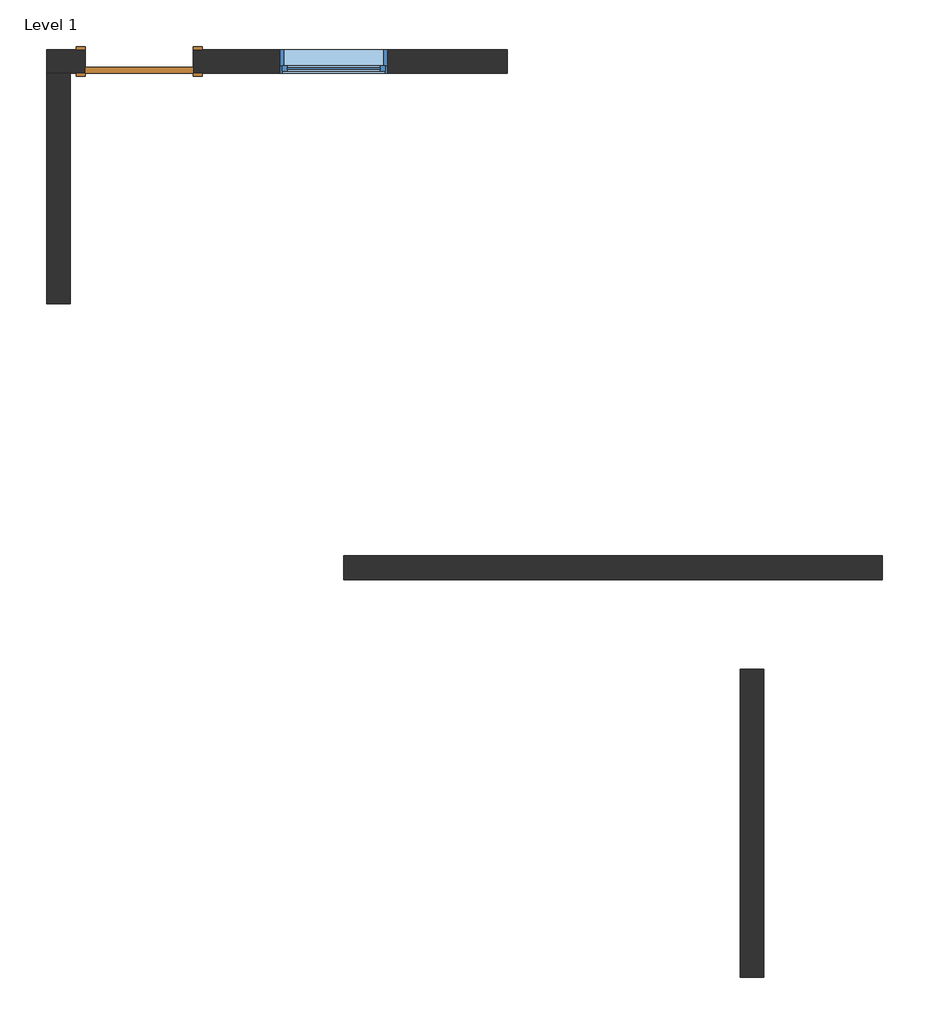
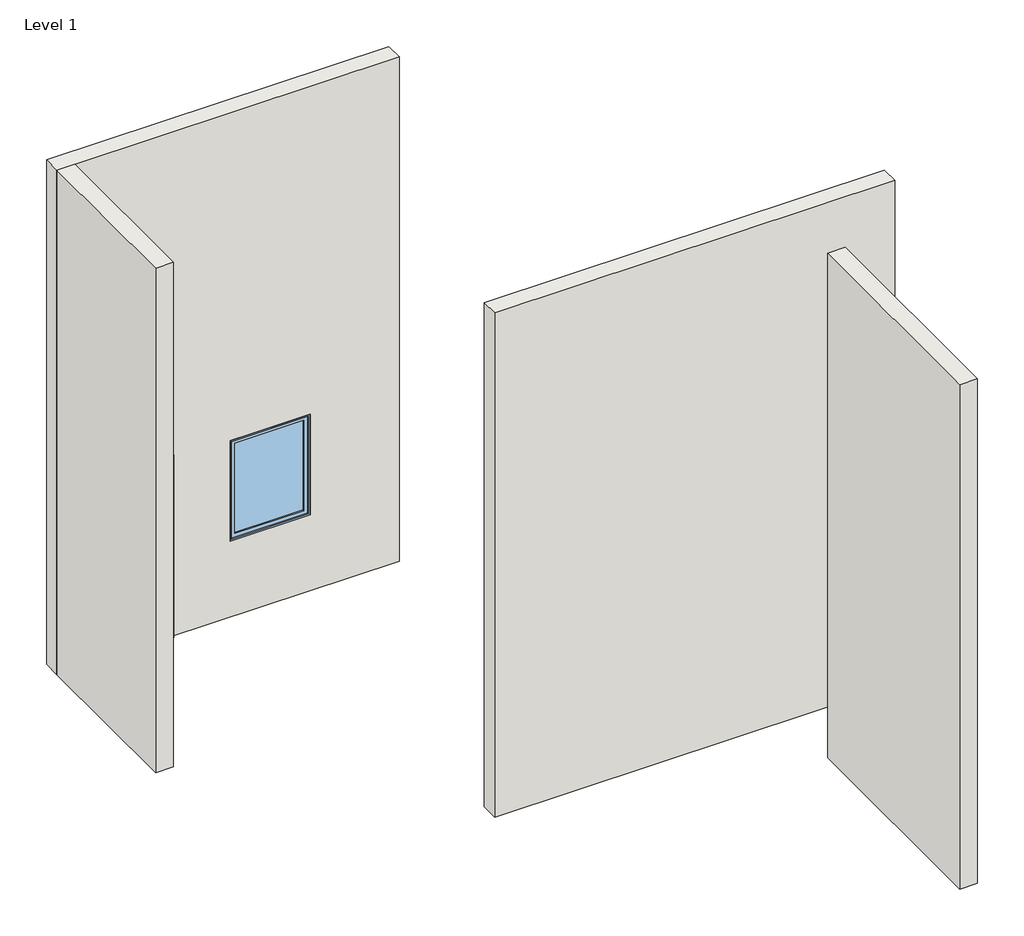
# One storey: 4 walls, 1 door, 1 window.
"""IFC4 building model written with IfcOpenShell, lengths in millimetres."""

from ifc_helpers import new_model, si_unit, origin, origin_with_axes, place, context, project, spatial, polyline, outline, extrude, faceted_brep, transform, mapped, element, save
from components import door_54dd4da4, window_e2841890

model = new_model("IFC4")

# Units and contexts
model_context = context("Model", 3, world=origin())
ifc_project = project(units=[si_unit("LENGTHUNIT", "METRE", prefix="MILLI")], contexts=[model_context])

# Site, building, storey
site = spatial("IfcSite", under=ifc_project)
building = spatial("IfcBuilding", under=site)
storey = spatial("IfcBuildingStorey", under=building, Name="Level 1", Elevation=0.0)

# Door
placement = place(None, origin())
door_shape = door_54dd4da4(model_context)
element("IfcDoor", 1, ObjectType="Single-Flush : 36\" x 84\"", at=placement, inside=storey, context=model_context, shape_type="MappedRepresentation", body=[
    mapped(door_shape, transform((1002.5435012, 12199.993224, 0.0), x_axis=(-1.0, 0.0, 0.0), y_axis=(0.0, -1.0, 0.0), z_axis=(0.0, 0.0, 1.0))),
])

# Walls
element("IfcWall", 2, ObjectType="Generic - 8\"", at=placement, inside=storey, context=model_context, shape_type="SweptSolid", body=[
    extrude(outline(polyline([(2737.0466317, 8002.8324689), (7309.0466317, 8002.8324689), (7309.0466317, 7799.6324689), (2737.0466317, 7799.6324689), (2737.0466317, 8002.8324689)])), origin_with_axes(), (0.0, 0.0, 1.0), 6096.0),
])
element("IfcWall", 3, ObjectType="Generic - 8\"", at=placement, inside=storey, context=model_context, shape_type="SweptSolid", body=[
    extrude(outline(polyline([(6103.5183241, 4423.0396466), (6103.5183241, 7039.2396466), (6306.7183241, 7039.2396466), (6306.7183241, 4423.0396466), (6103.5183241, 4423.0396466)])), origin_with_axes(), (0.0, 0.0, 1.0), 6096.0),
])
element("IfcWall", 4, ObjectType="Generic - 8\"", at=placement, inside=storey, context=model_context, shape_type="Brep", body=[
    faceted_brep([(215.1435012, 12098.393224, 0.0), (418.3435012, 12098.393224, 0.0), (545.3435012, 12098.393224, 0.0), (545.3435012, 12098.393224, 2133.6), (1459.7435012, 12098.393224, 2133.6), (1459.7435012, 12098.393224, 0.0), (4126.7435012, 12098.393224, 0.0), (4126.7435012, 12098.393224, 6096.0), (418.3435012, 12098.393224, 6096.0), (215.1435012, 12098.393224, 6096.0), (2196.3435012, 12098.393224, 2133.6), (3110.7435012, 12098.393224, 2133.6), (3110.7435012, 12098.393224, 914.4), (2196.3435012, 12098.393224, 914.4), (545.3435012, 12301.593224, 2133.6), (545.3435012, 12301.593224, 0.0), (215.1435012, 12301.593224, 0.0), (215.1435012, 12301.593224, 6096.0), (4126.7435012, 12301.593224, 6096.0), (4126.7435012, 12301.593224, 0.0), (1459.7435012, 12301.593224, 0.0), (1459.7435012, 12301.593224, 2133.6), (2196.3435012, 12301.593224, 2133.6), (2196.3435012, 12301.593224, 914.4), (3110.7435012, 12301.593224, 914.4), (3110.7435012, 12301.593224, 2133.6)], [[[0, 1, 2, 3, 4, 5, 6, 7, 8, 9], [10, 11, 12, 13]], [[14, 15, 16, 17, 18, 19, 20, 21], [22, 23, 24, 25]], [[16, 15, 2, 1, 0]], [[20, 19, 6, 5]], [[7, 6, 19, 18]], [[9, 8, 7, 18, 17]], [[0, 9, 17, 16]], [[3, 2, 15, 14]], [[4, 3, 14, 21]], [[5, 4, 21, 20]], [[23, 22, 10, 13]], [[24, 23, 13, 12]], [[25, 24, 12, 11]], [[22, 25, 11, 10]]]),
])
element("IfcWall", 5, ObjectType="Generic - 8\"", at=placement, inside=storey, context=model_context, shape_type="SweptSolid", body=[
    extrude(outline(polyline([(215.1435012, 10142.593224), (215.1435012, 12098.393224), (418.3435012, 12098.393224), (418.3435012, 10142.593224), (215.1435012, 10142.593224)])), origin_with_axes(), (0.0, 0.0, 1.0), 6096.0),
])

# Window
window_shape = window_e2841890(model_context)
element("IfcWindow", 6, ObjectType="Fixed : 36\" x 48\"", at=placement, inside=storey, context=model_context, shape_type="MappedRepresentation", body=[
    mapped(window_shape, transform((2615.4435012, 12199.993224, 0.0), x_axis=(-1.0, 0.0, 0.0), y_axis=(0.0, -1.0, 0.0), z_axis=(0.0, 0.0, 1.0))),
])

save(model, "model.ifc")
